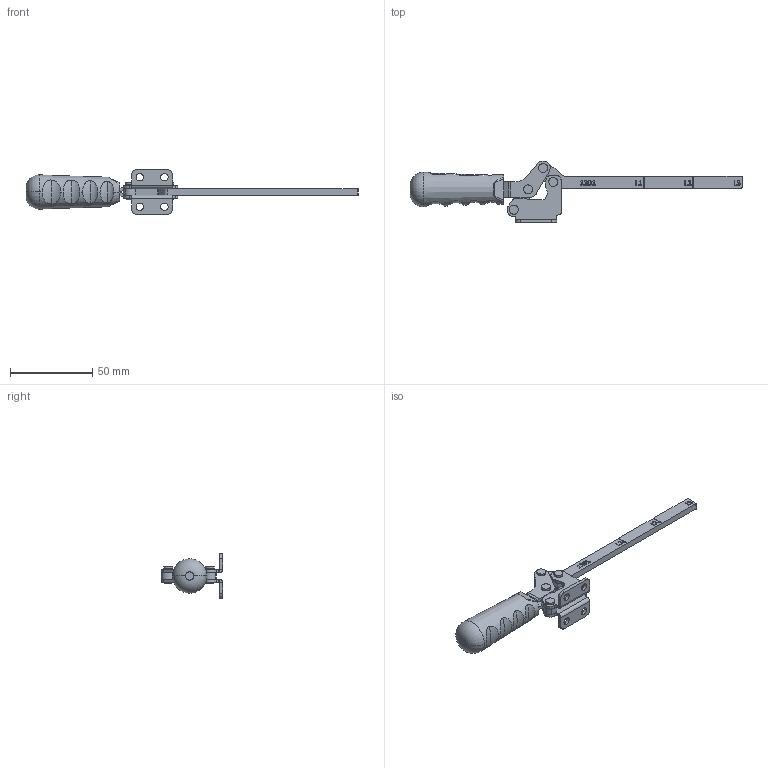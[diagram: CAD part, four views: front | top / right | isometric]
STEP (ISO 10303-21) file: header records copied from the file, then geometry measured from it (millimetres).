
FILE_DESCRIPTION (( 'STEP AP203' ), '1' );
FILE_NAME ('1201_Y_L.STEP', '2022-11-22T14:00:00', ( '' ), ( '' ), 'SwSTEP 2.0', 'SolidWorks 2023', '' );
FILE_SCHEMA (( 'CONFIG_CONTROL_DESIGN' ));
Length unit declared in the file: millimetre
Products named in the file (8): 3_1204_Hareket Kolu; 1_1204_gOVDE_Varsayılan; 1201_Y_L; 4_1204_Mafsal; C55_Yeni_Tutamak_Varsayılan; 2_1204_BaskıKolu_Lama; Aynalama3_1204_Hareket Kolu; Pim_3_5x10_5
Assembly tree (10 placements, depth 2):
  1201_Y_L
    1_1204_gOVDE_Varsayılan
    3_1204_Hareket Kolu
    4_1204_Mafsal
    Pim_3_5x10_5  x4
    Aynalama3_1204_Hareket Kolu
    C55_Yeni_Tutamak_Varsayılan
    2_1204_BaskıKolu_Lama
Bounding box: 202.36 x 37.73 x 27.01 mm (x, y, z)
Volume: 23831.1 mm3; surface area: 17650.3 mm2
Topology: 11 solids, 11 shells, 820 faces, 2196 edges, 1434 vertices
Faces by surface type: plane 450, cylinder 189, bspline 169, torus 10, cone 2
Entity records: 28603 total; most frequent: CARTESIAN_POINT 11943, ORIENTED_EDGE 3552, DIRECTION 2792, EDGE_CURVE 1776, VERTEX_POINT 1170, VECTOR 1128, LINE 1128, AXIS2_PLACEMENT_3D 832
